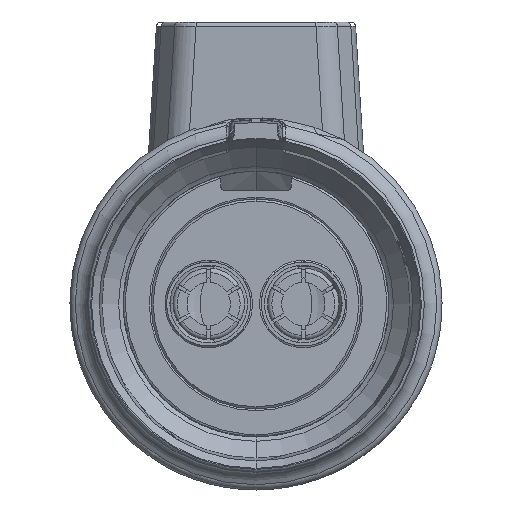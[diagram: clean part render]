
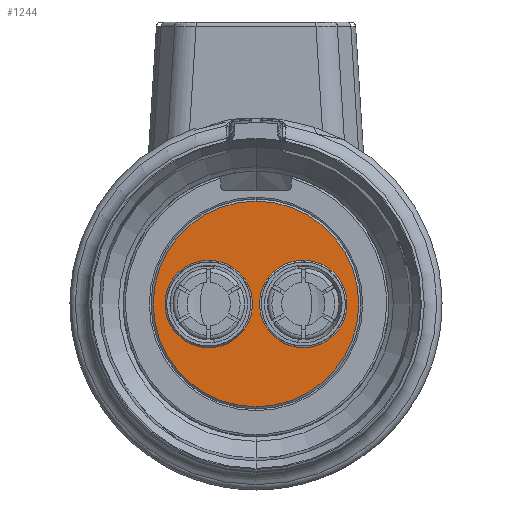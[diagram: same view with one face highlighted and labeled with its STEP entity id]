
A CAD part, front view. The second image highlights one B-rep face of the part: STEP entity #1244.
In plain terms, the highlighted planar face has unit normal (0, -1, 0).
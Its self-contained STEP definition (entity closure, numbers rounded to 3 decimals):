
#20=CARTESIAN_POINT('',(0.,16.,0.));
#21=DIRECTION('',(0.,1.,0.));
#22=DIRECTION('',(0.,0.,-1.));
#23=AXIS2_PLACEMENT_3D('',#20,#21,#22);
#25=CARTESIAN_POINT('',(0.,16.,0.));
#26=DIRECTION('',(0.,1.,0.));
#27=DIRECTION('',(0.,0.,1.));
#28=AXIS2_PLACEMENT_3D('',#25,#26,#27);
#30=CARTESIAN_POINT('',(5.45,16.,0.));
#31=DIRECTION('',(0.,-1.,0.));
#32=DIRECTION('',(0.707,0.,0.707));
#33=AXIS2_PLACEMENT_3D('',#30,#31,#32);
#35=CARTESIAN_POINT('',(5.45,16.,0.));
#36=DIRECTION('',(0.,-1.,0.));
#37=DIRECTION('',(-0.707,0.,-0.707));
#38=AXIS2_PLACEMENT_3D('',#35,#36,#37);
#40=CARTESIAN_POINT('',(-5.45,16.,0.));
#41=DIRECTION('',(0.,-1.,0.));
#42=DIRECTION('',(-0.707,0.,-0.707));
#43=AXIS2_PLACEMENT_3D('',#40,#41,#42);
#45=CARTESIAN_POINT('',(-5.45,16.,0.));
#46=DIRECTION('',(0.,-1.,0.));
#47=DIRECTION('',(0.707,0.,0.707));
#48=AXIS2_PLACEMENT_3D('',#45,#46,#47);
#1159=CARTESIAN_POINT('',(0.,16.,-11.85));
#1160=CARTESIAN_POINT('',(0.,16.,11.85));
#1161=VERTEX_POINT('',#1159);
#1162=VERTEX_POINT('',#1160);
#1183=CARTESIAN_POINT('',(1.879,16.,-3.571));
#1184=CARTESIAN_POINT('',(9.021,16.,3.571));
#1185=VERTEX_POINT('',#1183);
#1186=VERTEX_POINT('',#1184);
#1189=CARTESIAN_POINT('',(-1.879,16.,3.571));
#1190=CARTESIAN_POINT('',(-9.021,16.,-3.571));
#1191=VERTEX_POINT('',#1189);
#1192=VERTEX_POINT('',#1190);
#1221=CARTESIAN_POINT('',(0.,16.,0.));
#1222=DIRECTION('',(0.,-1.,0.));
#1223=DIRECTION('',(0.,0.,1.));
#1224=AXIS2_PLACEMENT_3D('',#1221,#1222,#1223);
#1225=PLANE('',#1224);
#1227=ORIENTED_EDGE('',*,*,#1226,.T.);
#1229=ORIENTED_EDGE('',*,*,#1228,.T.);
#1230=EDGE_LOOP('',(#1227,#1229));
#1231=FACE_OUTER_BOUND('',#1230,.F.);
#1233=ORIENTED_EDGE('',*,*,#1232,.T.);
#1235=ORIENTED_EDGE('',*,*,#1234,.T.);
#1236=EDGE_LOOP('',(#1233,#1235));
#1237=FACE_BOUND('',#1236,.F.);
#1239=ORIENTED_EDGE('',*,*,#1238,.T.);
#1241=ORIENTED_EDGE('',*,*,#1240,.T.);
#1242=EDGE_LOOP('',(#1239,#1241));
#1243=FACE_BOUND('',#1242,.F.);
#24=CIRCLE('',#23,11.85);
#29=CIRCLE('',#28,11.85);
#34=CIRCLE('',#33,5.05);
#39=CIRCLE('',#38,5.05);
#44=CIRCLE('',#43,5.05);
#49=CIRCLE('',#48,5.05);
#1226=EDGE_CURVE('',#1161,#1162,#24,.T.);
#1228=EDGE_CURVE('',#1162,#1161,#29,.T.);
#1232=EDGE_CURVE('',#1186,#1185,#34,.T.);
#1234=EDGE_CURVE('',#1185,#1186,#39,.T.);
#1238=EDGE_CURVE('',#1192,#1191,#44,.T.);
#1240=EDGE_CURVE('',#1191,#1192,#49,.T.);
#1244=ADVANCED_FACE('',(#1231,#1237,#1243),#1225,.T.);
